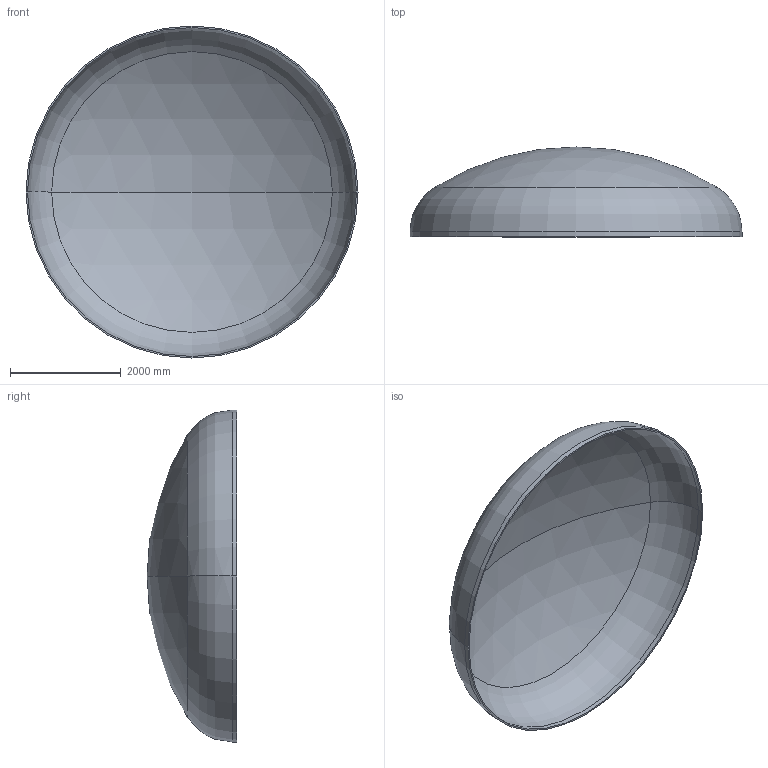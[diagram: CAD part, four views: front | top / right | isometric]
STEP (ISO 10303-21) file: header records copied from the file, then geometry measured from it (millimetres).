
FILE_DESCRIPTION (( 'STEP AP203' ), '1' );
FILE_NAME ('DIN 28013 Korbbogenform_-_Boden DIN 28013 - 6000 x 85 - I - s=27.step', '2016-07-04T10:36:21', ( '' ), ( '' ), 'SwSTEP 2.0', 'SolidWorks 2013', '' );
FILE_SCHEMA (( 'CONFIG_CONTROL_DESIGN' ));
Length unit declared in the file: millimetre
Products named in the file (1): DIN 28013 Korbbogenform_-_Boden DIN 28013 - 6000 x 85 - I - s=27
Bounding box: 6000 x 1622.42 x 6000 mm (x, y, z)
Volume: 1094368025 mm3; surface area: 81572440.5 mm2
Topology: 1 solids, 1 shells, 13 faces, 24 edges, 14 vertices
Faces by surface type: torus 4, cylinder 4, sphere 4, plane 1
Entity records: 407 total; most frequent: DIRECTION 72, CARTESIAN_POINT 52, ORIENTED_EDGE 48, AXIS2_PLACEMENT_3D 34, EDGE_CURVE 24, CIRCLE 20, EDGE_LOOP 14, VERTEX_POINT 14
